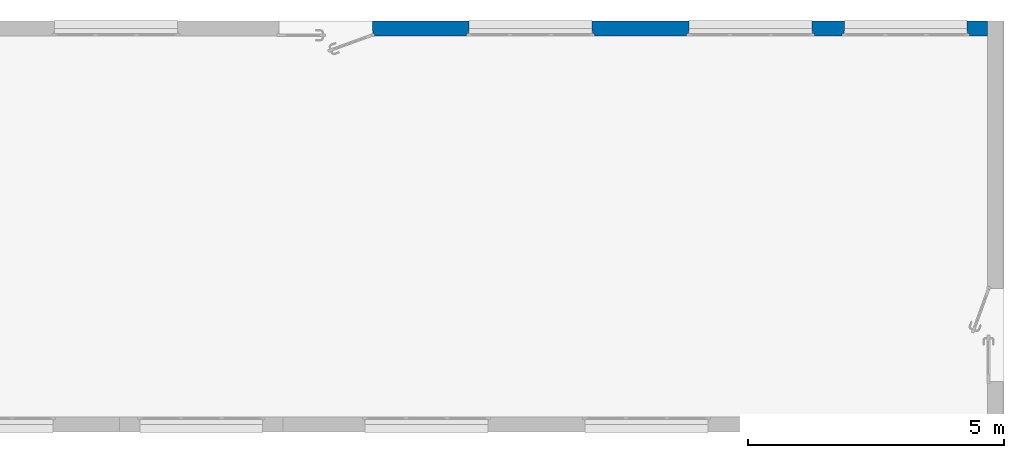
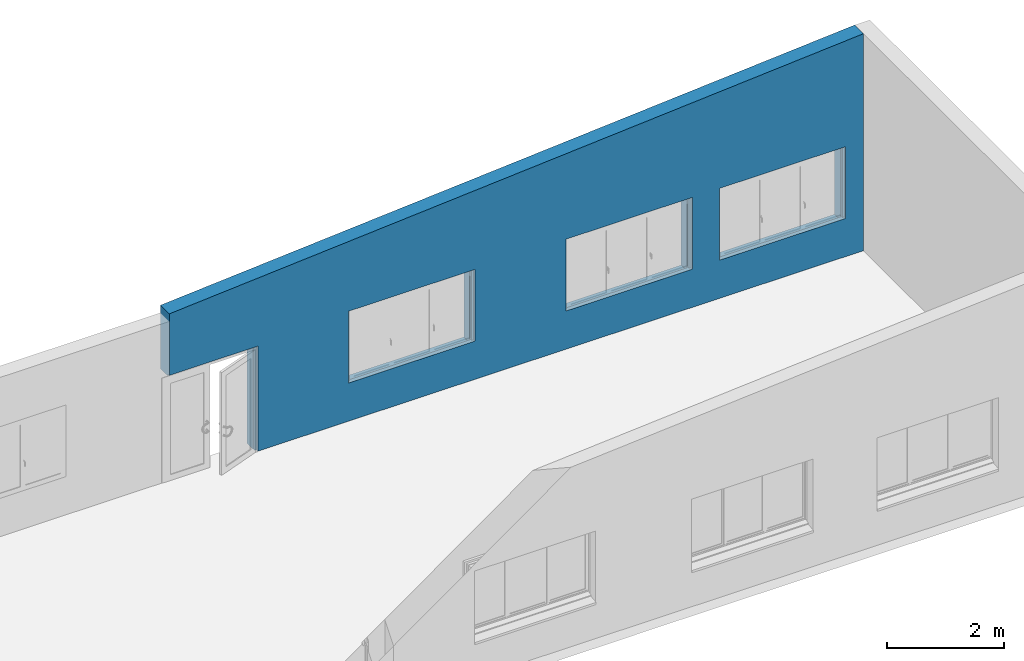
# One storey, part 7 of 8: 1 wall, 4 openings.
"""IFC2X3 building model written with IfcOpenShell, lengths in metres."""

from ifc_helpers import new_model, entity, si_unit, converted_unit, derived_unit, direction, frame, frame_2d, origin, place, context, subcontext, project, spatial, polyline, rectangle, extrude, clip, bounded_halfspace, faceted_brep, material, layer, layer_set, layer_usage, type_object, element, save


model = new_model("IFC2X3")

# Units and contexts
model_context = context("Model", 3, precision=1e-05, world=origin(), true_north=direction((6.12303176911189e-17, 1.0)))
body_context = subcontext(model_context, "Body", "Model", "MODEL_VIEW")
ifc_project = project(units=[si_unit("LENGTHUNIT", "METRE"), si_unit("AREAUNIT", "SQUARE_METRE"), si_unit("VOLUMEUNIT", "CUBIC_METRE"), converted_unit("PLANEANGLEUNIT", "DEGREE", entity("IfcRatioMeasure", 0.0174532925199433), si_unit("PLANEANGLEUNIT", "RADIAN"), dimensions=[0, 0, 0, 0, 0, 0, 0]), si_unit("MASSUNIT", "GRAM", prefix="KILO"), derived_unit("MASSDENSITYUNIT", [(si_unit("MASSUNIT", "GRAM", prefix="KILO"), 1), (si_unit("LENGTHUNIT", "METRE"), -3)]), si_unit("TIMEUNIT", "SECOND"), si_unit("FREQUENCYUNIT", "HERTZ"), si_unit("THERMODYNAMICTEMPERATUREUNIT", "DEGREE_CELSIUS"), derived_unit("THERMALTRANSMITTANCEUNIT", [(si_unit("MASSUNIT", "GRAM", prefix="KILO"), 1), (si_unit("THERMODYNAMICTEMPERATUREUNIT", "KELVIN"), -1), (si_unit("TIMEUNIT", "SECOND"), -3)]), derived_unit("VOLUMETRICFLOWRATEUNIT", [(si_unit("LENGTHUNIT", "METRE"), 3), (si_unit("TIMEUNIT", "SECOND"), -1)]), si_unit("ELECTRICCURRENTUNIT", "AMPERE"), si_unit("ELECTRICVOLTAGEUNIT", "VOLT"), si_unit("POWERUNIT", "WATT"), si_unit("FORCEUNIT", "NEWTON", prefix="KILO"), si_unit("ILLUMINANCEUNIT", "LUX"), si_unit("LUMINOUSFLUXUNIT", "LUMEN"), si_unit("LUMINOUSINTENSITYUNIT", "CANDELA"), derived_unit("USERDEFINED", [(si_unit("MASSUNIT", "GRAM", prefix="KILO"), -1), (si_unit("LENGTHUNIT", "METRE"), -2), (si_unit("TIMEUNIT", "SECOND"), 3), (si_unit("LUMINOUSFLUXUNIT", "LUMEN"), 1)]), derived_unit("LINEARVELOCITYUNIT", [(si_unit("LENGTHUNIT", "METRE"), 1), (si_unit("TIMEUNIT", "SECOND"), -1)]), si_unit("PRESSUREUNIT", "PASCAL"), derived_unit("USERDEFINED", [(si_unit("LENGTHUNIT", "METRE"), -2), (si_unit("MASSUNIT", "GRAM", prefix="KILO"), 1), (si_unit("TIMEUNIT", "SECOND"), -2)])], contexts=[model_context])

# Site, building, storey
site_placement = place(None, origin())
site = spatial("IfcSite", under=ifc_project, at=site_placement, Name="Default", CompositionType="ELEMENT")
building_placement = place(site_placement, origin())
building = spatial("IfcBuilding", under=site, at=building_placement, CompositionType="ELEMENT")
storey_placement = place(building_placement, frame((0.0, 0.0, 3.3)))
storey = spatial("IfcBuildingStorey", under=building, at=storey_placement, Name="Niveau 1", CompositionType="ELEMENT", Elevation=3.3)

# Wall, openings
ifc_material_1 = material(Name="Maçonnerie - Voile BA")
ifc_layer_1 = layer(ifc_material_1, 0.18)
ifc_material_2 = material(Name="Maçonnerie - Isolant")
ifc_layer_2 = layer(ifc_material_2, 0.12)
ifc_layer_set = layer_set([ifc_layer_1, ifc_layer_2], Name="Mur de base:Ext. Voile BA 18 + Isolant 12")
ifc_layer_usage = layer_usage(ifc_layer_set, "AXIS2", "NEGATIVE", 0.15)
wall_type = type_object("IfcWallType", Name="Mur de base:Ext. Voile BA 18 + Isolant 12", PredefinedType="STANDARD", material=ifc_layer_set)
wall_placement = place(storey_placement, frame((-1.45395876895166, 2.85911858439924, 0.0)))
wall = element("IfcWallStandardCase", 1, at=wall_placement, inside=storey, type_object=wall_type, material=ifc_layer_usage, Name="Mur de base:Ext. Voile BA 18 + Isolant 12", ObjectType="Mur de base:Ext. Voile BA 18 + Isolant 12", context=body_context, shape_type="Clipping", body=[
    clip(extrude(rectangle(XDim=13.7344443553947, YDim=0.3, at=frame_2d((6.86722217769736, -1.2490009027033e-16), x_axis=(-1.0, 0.0))), origin(), (0.0, 0.0, 1.0), 4.54000000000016), bounded_halfspace(frame((0.0, -0.15, 3.48773866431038), z_axis=(0.0763909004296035, 0.0, -0.997077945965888), x_axis=(0.997077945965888, 0.0, 0.0763909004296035)), True, frame((0.0, -0.15, 3.48773866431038)), polyline([(0.0, 0.0), (13.7344443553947, 0.0), (13.7344443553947, 0.3), (0.0, 0.3), (0.0, 0.0)]))),
])
opening_1_placement = place(wall_placement, frame((-0.150000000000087, -0.450000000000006, 0.0)))
element("IfcOpeningElement", 2, at=opening_1_placement, cuts=wall, Name="Mur de base:Ext. Voile BA 18 + Isolant 12", ObjectType="Opening", context=body_context, shape_type="Brep", body=[
    faceted_brep([(0.0400000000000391, 0.0, 2.15999999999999), (1.86000000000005, 0.0, 2.15999999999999), (1.86000000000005, 0.292, 2.15999999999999), (0.0400000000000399, 0.292000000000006, 2.15999999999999), (0.0400000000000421, 0.89999999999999, 0.0), (1.86000000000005, 0.899999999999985, 0.0), (1.86000000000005, 0.400000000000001, 0.0), (1.87000000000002, 0.400000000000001, 0.0), (1.87000000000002, 0.350000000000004, 0.0), (1.90000000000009, 0.350000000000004, 0.0), (1.90000000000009, 0.292, 0.0), (1.86000000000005, 0.292, 0.0), (1.86000000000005, 0.0, 0.0), (0.0400000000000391, 0.0, 0.0), (0.0400000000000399, 0.292000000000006, 0.0), (0.0, 0.292000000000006, 0.0), (0.0, 0.35000000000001, 0.0), (0.0300000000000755, 0.35000000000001, 0.0), (0.0300000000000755, 0.400000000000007, 0.0), (0.0400000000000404, 0.400000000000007, 0.0), (0.0400000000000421, 0.89999999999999, 2.15999999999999), (1.86000000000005, 0.899999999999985, 2.15999999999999), (1.86000000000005, 0.400000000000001, 2.15999999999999), (1.87000000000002, 0.350000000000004, 2.16999999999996), (0.0300000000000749, 0.35000000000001, 2.16999999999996), (0.0, 0.35000000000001, 2.20000000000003), (1.90000000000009, 0.350000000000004, 2.20000000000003), (1.87000000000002, 0.400000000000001, 2.16999999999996), (0.0400000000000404, 0.400000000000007, 2.15999999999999), (0.0300000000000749, 0.400000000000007, 2.16999999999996), (1.90000000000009, 0.292, 2.20000000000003), (0.0, 0.292000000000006, 2.20000000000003)], [[[0, 1, 2, 3]], [[4, 5, 6, 7, 8, 9, 10, 11, 12, 13, 14, 15, 16, 17, 18, 19]], [[13, 0, 3, 14]], [[20, 21, 5, 4]], [[5, 21, 22, 6]], [[1, 0, 13, 12]], [[9, 8, 23, 24, 17, 16, 25, 26]], [[8, 7, 27, 23]], [[7, 6, 22, 28, 19, 18, 29, 27]], [[11, 10, 30, 31, 15, 14, 3, 2]], [[10, 9, 26, 30]], [[24, 23, 27, 29]], [[26, 25, 31, 30]], [[17, 24, 29, 18]], [[25, 16, 15, 31]], [[1, 12, 11, 2]], [[20, 4, 19, 28]], [[21, 20, 28, 22]]]),
])
opening_2_placement = place(wall_placement, frame((3.55, -0.500000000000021, 0.720000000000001)))
element("IfcOpeningElement", 3, at=opening_2_placement, cuts=wall, Name="Mur de base:Ext. Voile BA 18 + Isolant 12", ObjectType="Opening", context=body_context, shape_type="Brep", body=[
    faceted_brep([(0.05, 0.429999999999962, 0.0800000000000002), (0.05, 0.450000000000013, 0.0800000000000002), (0.05, 0.450000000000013, 1.53), (0.0500000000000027, 1.0, 1.53), (0.0500000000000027, 1.0, 0.0), (0.05, 0.429999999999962, 0.0), (2.45, 0.0, 0.0800000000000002), (2.45, 0.350000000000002, 0.0800000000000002), (2.45, 0.350000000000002, 1.53), (2.45, 0.0, 1.53), (0.0499999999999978, 0.0, 0.0800000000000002), (0.0499999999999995, 0.35000000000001, 0.0800000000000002), (0.0, 0.35000000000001, 0.0800000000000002), (0.0, 0.400000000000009, 0.0800000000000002), (0.0400000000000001, 0.400000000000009, 0.0800000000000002), (0.0400000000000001, 0.450000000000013, 0.0800000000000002), (2.45, 0.42999999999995, 0.0800000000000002), (2.45, 0.450000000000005, 0.0800000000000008), (2.46, 0.450000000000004, 0.0800000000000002), (2.46, 0.400000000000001, 0.0800000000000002), (2.5, 0.400000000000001, 0.0800000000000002), (2.5, 0.350000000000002, 0.0800000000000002), (0.0499999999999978, 0.0, 1.53), (2.45, 0.450000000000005, 1.53), (2.45, 1.0, 1.53), (2.45, 1.0, 0.0), (2.45, 0.429999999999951, 0.0), (0.0, 0.35000000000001, 1.58), (0.0, 0.400000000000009, 1.58), (2.5, 0.400000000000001, 1.58), (2.46, 0.400000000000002, 1.54), (0.0400000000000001, 0.400000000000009, 1.54), (0.0400000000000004, 0.450000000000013, 1.54), (2.46, 0.450000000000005, 1.54), (0.0499999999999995, 0.35000000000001, 1.53), (2.5, 0.350000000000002, 1.58)], [[[0, 1, 2, 3, 4, 5]], [[6, 7, 8, 9]], [[10, 11, 12, 13, 14, 15, 1, 0, 16, 17, 18, 19, 20, 21, 7, 6]], [[10, 6, 9, 22]], [[3, 2, 23, 24]], [[3, 24, 25, 4]], [[4, 25, 26, 5]], [[5, 26, 16, 0]], [[12, 27, 28, 13]], [[13, 28, 29, 20, 19, 30, 31, 14]], [[14, 31, 32, 15]], [[15, 32, 33, 18, 17, 23, 2, 1]], [[11, 34, 8, 7, 21, 35, 27, 12]], [[27, 35, 29, 28]], [[30, 33, 32, 31]], [[29, 35, 21, 20]], [[19, 18, 33, 30]], [[9, 8, 34, 22]], [[24, 23, 17, 16, 26, 25]], [[22, 34, 11, 10]]]),
])
opening_3_placement = place(wall_placement, frame((7.85, -0.500000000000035, 0.720000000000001)))
element("IfcOpeningElement", 4, at=opening_3_placement, cuts=wall, Name="Mur de base:Ext. Voile BA 18 + Isolant 12", ObjectType="Opening", context=body_context, shape_type="Brep", body=[
    faceted_brep([(0.0500000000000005, 0.429999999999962, 0.0800000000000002), (0.0500000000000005, 0.450000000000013, 0.0800000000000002), (0.0500000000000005, 0.450000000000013, 1.53), (0.0500000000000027, 1.0, 1.53), (0.0500000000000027, 1.0, 0.0), (0.0500000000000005, 0.429999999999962, 0.0), (2.45, 0.0, 0.0800000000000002), (2.45, 0.350000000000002, 0.0800000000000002), (2.45, 0.350000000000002, 1.53), (2.45, 0.0, 1.53), (0.0499999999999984, 0.0, 0.0800000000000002), (0.0500000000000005, 0.35000000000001, 0.0800000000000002), (0.0, 0.35000000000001, 0.0800000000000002), (0.0, 0.400000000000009, 0.0800000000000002), (0.0400000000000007, 0.400000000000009, 0.0800000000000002), (0.0400000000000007, 0.450000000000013, 0.0800000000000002), (2.45, 0.42999999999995, 0.0800000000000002), (2.45, 0.450000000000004, 0.0800000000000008), (2.46, 0.450000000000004, 0.0800000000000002), (2.46, 0.400000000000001, 0.0800000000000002), (2.5, 0.400000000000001, 0.0800000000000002), (2.5, 0.350000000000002, 0.0800000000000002), (0.0499999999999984, 0.0, 1.53), (2.45, 0.450000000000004, 1.53), (2.45, 1.0, 1.53), (2.45, 1.0, 0.0), (2.45, 0.429999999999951, 0.0), (0.0, 0.35000000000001, 1.58), (0.0, 0.400000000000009, 1.58), (2.5, 0.400000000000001, 1.58), (2.46, 0.400000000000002, 1.54), (0.0400000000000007, 0.400000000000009, 1.54), (0.0400000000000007, 0.450000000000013, 1.54), (2.46, 0.450000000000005, 1.54), (0.0500000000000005, 0.35000000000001, 1.53), (2.5, 0.350000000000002, 1.58)], [[[0, 1, 2, 3, 4, 5]], [[6, 7, 8, 9]], [[10, 11, 12, 13, 14, 15, 1, 0, 16, 17, 18, 19, 20, 21, 7, 6]], [[10, 6, 9, 22]], [[3, 2, 23, 24]], [[3, 24, 25, 4]], [[4, 25, 26, 5]], [[5, 26, 16, 0]], [[12, 27, 28, 13]], [[13, 28, 29, 20, 19, 30, 31, 14]], [[14, 31, 32, 15]], [[15, 32, 33, 18, 17, 23, 2, 1]], [[11, 34, 8, 7, 21, 35, 27, 12]], [[27, 35, 29, 28]], [[30, 33, 32, 31]], [[29, 35, 21, 20]], [[19, 18, 33, 30]], [[9, 8, 34, 22]], [[24, 23, 17, 16, 26, 25]], [[22, 34, 11, 10]]]),
])
opening_4_placement = place(wall_placement, frame((10.8844443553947, -0.500000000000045, 0.720000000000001)))
element("IfcOpeningElement", 5, at=opening_4_placement, cuts=wall, Name="Mur de base:Ext. Voile BA 18 + Isolant 12", ObjectType="Opening", context=body_context, shape_type="Brep", body=[
    faceted_brep([(0.0499999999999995, 0.429999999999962, 0.0800000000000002), (0.0499999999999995, 0.450000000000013, 0.0800000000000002), (0.0499999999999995, 0.450000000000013, 1.53), (0.0500000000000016, 1.0, 1.53), (0.0500000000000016, 1.0, 0.0), (0.0499999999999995, 0.429999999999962, 0.0), (2.45, 0.0, 0.0800000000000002), (2.45, 0.350000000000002, 0.0800000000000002), (2.45, 0.350000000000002, 1.53), (2.45, 0.0, 1.53), (0.0499999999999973, 0.0, 0.0800000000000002), (0.0499999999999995, 0.35000000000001, 0.0800000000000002), (0.0, 0.35000000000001, 0.0800000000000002), (0.0, 0.400000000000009, 0.0800000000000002), (0.0399999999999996, 0.400000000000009, 0.0800000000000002), (0.0399999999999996, 0.450000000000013, 0.0800000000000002), (2.45, 0.42999999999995, 0.0800000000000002), (2.45, 0.450000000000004, 0.0800000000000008), (2.46, 0.450000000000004, 0.0800000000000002), (2.46, 0.400000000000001, 0.0800000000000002), (2.5, 0.400000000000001, 0.0800000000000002), (2.5, 0.350000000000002, 0.0800000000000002), (0.0499999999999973, 0.0, 1.53), (2.45, 0.450000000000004, 1.53), (2.45, 1.0, 1.53), (2.45, 1.0, 0.0), (2.45, 0.429999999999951, 0.0), (0.0, 0.35000000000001, 1.58), (0.0, 0.400000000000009, 1.58), (2.5, 0.400000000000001, 1.58), (2.46, 0.400000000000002, 1.54), (0.0399999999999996, 0.400000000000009, 1.54), (0.0399999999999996, 0.450000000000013, 1.54), (2.46, 0.450000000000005, 1.54), (0.0499999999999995, 0.35000000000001, 1.53), (2.5, 0.350000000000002, 1.58)], [[[0, 1, 2, 3, 4, 5]], [[6, 7, 8, 9]], [[10, 11, 12, 13, 14, 15, 1, 0, 16, 17, 18, 19, 20, 21, 7, 6]], [[10, 6, 9, 22]], [[3, 2, 23, 24]], [[3, 24, 25, 4]], [[4, 25, 26, 5]], [[5, 26, 16, 0]], [[12, 27, 28, 13]], [[13, 28, 29, 20, 19, 30, 31, 14]], [[14, 31, 32, 15]], [[15, 32, 33, 18, 17, 23, 2, 1]], [[11, 34, 8, 7, 21, 35, 27, 12]], [[27, 35, 29, 28]], [[30, 33, 32, 31]], [[29, 35, 21, 20]], [[19, 18, 33, 30]], [[9, 8, 34, 22]], [[24, 23, 17, 16, 26, 25]], [[22, 34, 11, 10]]]),
])

save(model, "model.ifc")
